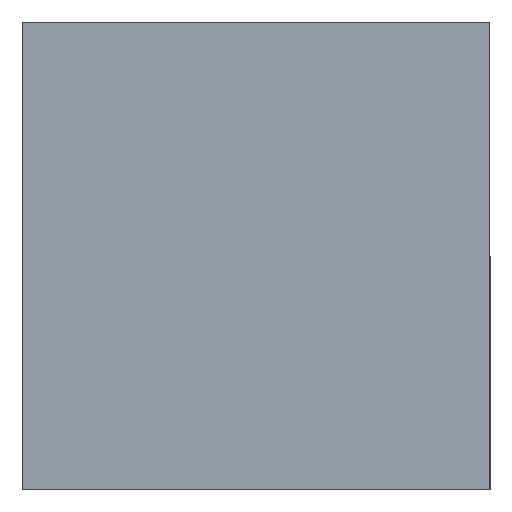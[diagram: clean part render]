
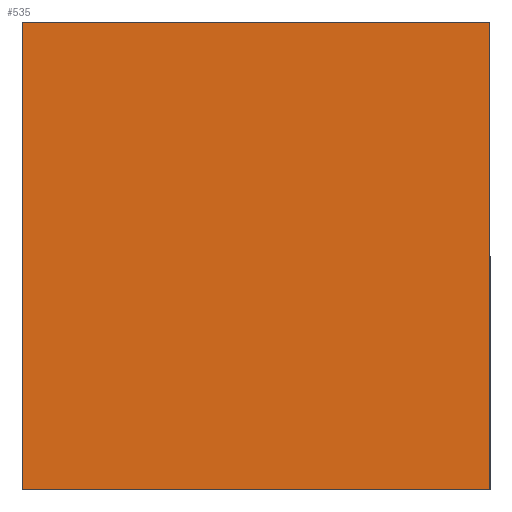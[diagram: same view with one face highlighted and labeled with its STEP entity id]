
A CAD part, left-side view. The second image highlights one B-rep face of the part: STEP entity #535.
In plain terms, the highlighted planar face has unit normal (-1, 0, 0).
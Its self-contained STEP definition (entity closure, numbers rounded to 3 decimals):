
#24 = LINE ( 'NONE', #612, #593 ) ;
#31 = VECTOR ( 'NONE', #193, 1000. ) ;
#38 = ORIENTED_EDGE ( 'NONE', *, *, #586, .F. ) ;
#61 = LINE ( 'NONE', #257, #583 ) ;
#70 = LINE ( 'NONE', #372, #307 ) ;
#85 = CARTESIAN_POINT ( 'NONE',  ( -49.948, -100., 49.96 ) ) ;
#88 = EDGE_CURVE ( 'NONE', #332, #447, #70, .T. ) ;
#115 = DIRECTION ( 'NONE',  ( 0., 0., 1. ) ) ;
#121 = EDGE_CURVE ( 'NONE', #265, #332, #61, .T. ) ;
#122 = CARTESIAN_POINT ( 'NONE',  ( -49.948, 0., -50.04 ) ) ;
#182 = CARTESIAN_POINT ( 'NONE',  ( -49.948, -100., -50.04 ) ) ;
#193 = DIRECTION ( 'NONE',  ( 0., 1., 0. ) ) ;
#237 = PLANE ( 'NONE',  #606 ) ;
#238 = DIRECTION ( 'NONE',  ( 0., -1., 0. ) ) ;
#248 = ORIENTED_EDGE ( 'NONE', *, *, #411, .F. ) ;
#254 = CARTESIAN_POINT ( 'NONE',  ( -49.948, -100., -50.04 ) ) ;
#257 = CARTESIAN_POINT ( 'NONE',  ( -49.948, -100., -50.04 ) ) ;
#265 = VERTEX_POINT ( 'NONE', #270 ) ;
#270 = CARTESIAN_POINT ( 'NONE',  ( -49.948, -100., -50.04 ) ) ;
#307 = VECTOR ( 'NONE', #595, 1000. ) ;
#332 = VERTEX_POINT ( 'NONE', #85 ) ;
#372 = CARTESIAN_POINT ( 'NONE',  ( -49.948, -100., 49.96 ) ) ;
#385 = ORIENTED_EDGE ( 'NONE', *, *, #88, .T. ) ;
#411 = EDGE_CURVE ( 'NONE', #503, #447, #24, .T. ) ;
#436 = EDGE_LOOP ( 'NONE', ( #248, #38, #714, #385 ) ) ;
#447 = VERTEX_POINT ( 'NONE', #448 ) ;
#448 = CARTESIAN_POINT ( 'NONE',  ( -49.948, 0., 49.96 ) ) ;
#450 = LINE ( 'NONE', #254, #31 ) ;
#503 = VERTEX_POINT ( 'NONE', #122 ) ;
#535 = ADVANCED_FACE ( 'NONE', ( #697 ), #237, .T. ) ;
#569 = DIRECTION ( 'NONE',  ( -1., 0., 0. ) ) ;
#583 = VECTOR ( 'NONE', #637, 1000. ) ;
#586 = EDGE_CURVE ( 'NONE', #265, #503, #450, .T. ) ;
#593 = VECTOR ( 'NONE', #115, 1000. ) ;
#595 = DIRECTION ( 'NONE',  ( 0., 1., 0. ) ) ;
#606 = AXIS2_PLACEMENT_3D ( 'NONE', #182, #569, #238 ) ;
#612 = CARTESIAN_POINT ( 'NONE',  ( -49.948, 0., -50.04 ) ) ;
#637 = DIRECTION ( 'NONE',  ( 0., 0., 1. ) ) ;
#697 = FACE_OUTER_BOUND ( 'NONE', #436, .T. ) ;
#714 = ORIENTED_EDGE ( 'NONE', *, *, #121, .T. ) ;
